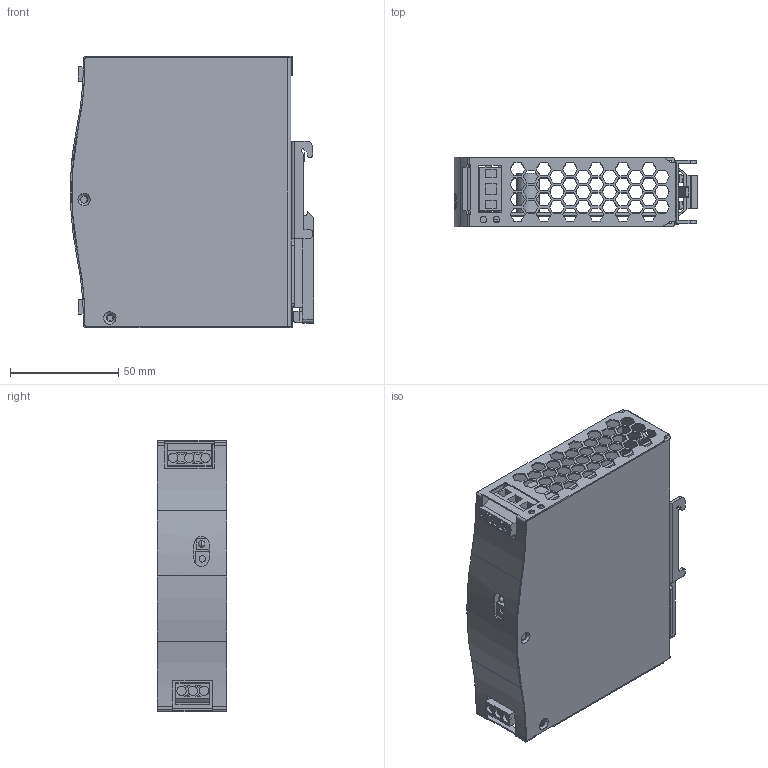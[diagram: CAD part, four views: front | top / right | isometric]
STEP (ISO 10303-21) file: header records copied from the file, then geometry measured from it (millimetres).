
FILE_DESCRIPTION(('OneSpaceDesigner STEP Export'),'2;1');
FILE_NAME('SDR-75.stp','2013-11-11T10:32:30',(''),(''),'OneSpace Designer STEP processor for AP214 (Solid Model)','OneSpace Designer 13.20 11-May-2005 (C) CoCreate Software GmbH','');
FILE_SCHEMA(('AUTOMOTIVE_DESIGN { 1 0 10303 214 1 1 1 1 }'));
Length unit declared in the file: millimetre
Products named in the file (15): led; pcb2; VR; LED; ºÝ¤l.1.1; ºÝ¤l.1; PCB2; ¤W»\; ©³®y; PCB1; p3.1.1; p3.2.1; ±¾®y; SDR-75
Assembly tree (14 placements, depth 3):
  SDR-75
    ±¾®y
      p3.2.1
      p3.1.1
    PCB1
      PCB1
    ©³®y
    ¤W»\
    PCB2
      ºÝ¤l.1
      ºÝ¤l.1.1
      LED
      VR
      pcb2
    led
Bounding box: 112.25 x 32 x 125.2 mm (x, y, z)
Volume: 87823.4 mm3; surface area: 118611.2 mm2
Topology: 10 solids, 10 shells, 1198 faces, 3447 edges, 2281 vertices
Faces by surface type: plane 955, cylinder 209, torus 18, cone 12, bspline 4
Entity records: 36865 total; most frequent: CARTESIAN_POINT 7109, ORIENTED_EDGE 6894, DIRECTION 4964, EDGE_CURVE 3447, VECTOR 2644, LINE 2644, VERTEX_POINT 2281, EDGE_LOOP 1456
